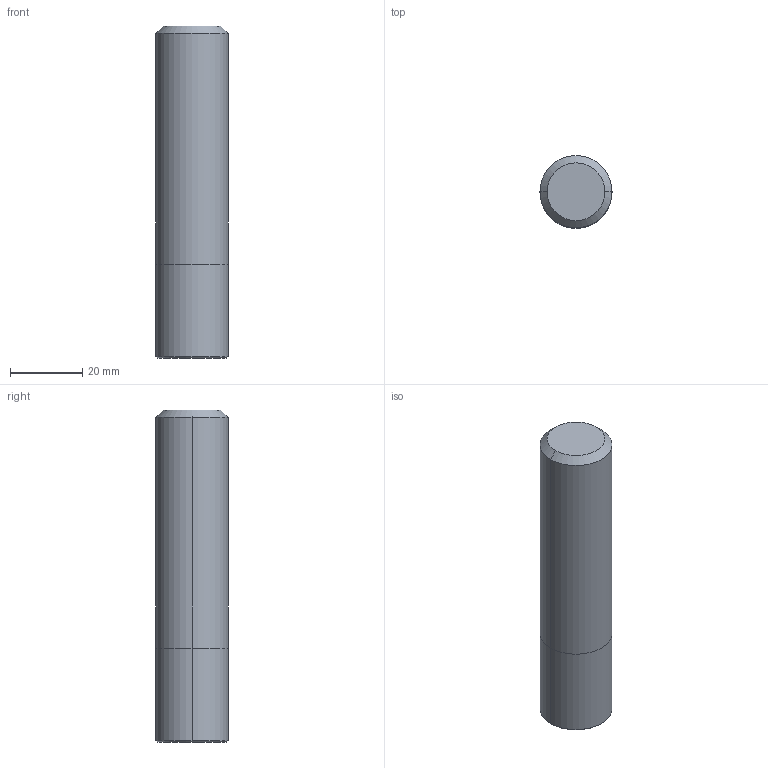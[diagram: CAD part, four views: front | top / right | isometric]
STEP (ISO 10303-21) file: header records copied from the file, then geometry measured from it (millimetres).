
FILE_DESCRIPTION (( 'STEP AP214' ), '1' );
FILE_NAME ('1.741.200.00_3D-model.step', '2022-02-15T17:55:01', ( '' ), ( '' ), 'SwSTEP 2.0', 'SolidWorks 2020', '' );
FILE_SCHEMA (( 'AUTOMOTIVE_DESIGN' ));
Length unit declared in the file: millimetre
Products named in the file (3): CUT-3D^Baugr173; NOCUT-3D^Baugr173; 1.741.200.00_3D-model
Assembly tree (2 placements, depth 2):
  1.741.200.00_3D-model
    CUT-3D^Baugr173
    NOCUT-3D^Baugr173
Bounding box: 20 x 20 x 92 mm (x, y, z)
Volume: 28780.4 mm3; surface area: 6943.4 mm2
Topology: 2 solids, 2 shells, 12 faces, 20 edges, 12 vertices
Faces by surface type: cylinder 4, cone 4, plane 4
Entity records: 406 total; most frequent: DIRECTION 72, CARTESIAN_POINT 52, ORIENTED_EDGE 40, AXIS2_PLACEMENT_3D 32, EDGE_CURVE 20, ADVANCED_FACE 12, FACE_OUTER_BOUND 12, VERTEX_POINT 12
